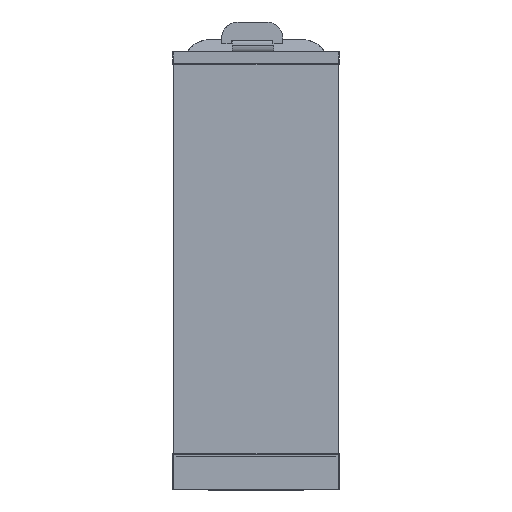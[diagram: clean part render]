
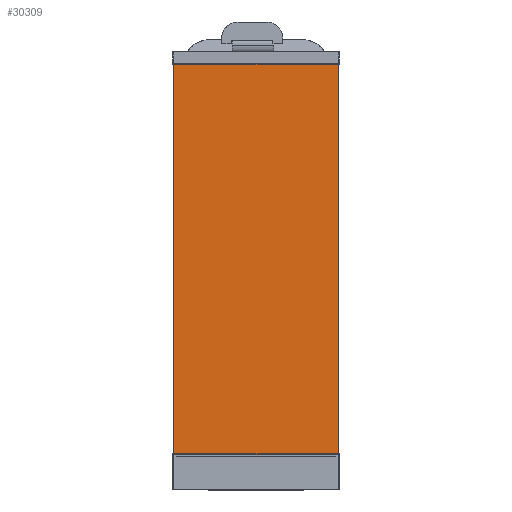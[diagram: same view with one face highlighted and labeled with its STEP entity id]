
A CAD part, left-side view. The second image highlights one B-rep face of the part: STEP entity #30309.
In plain terms, the highlighted planar face has unit normal (-1, 0, 0).
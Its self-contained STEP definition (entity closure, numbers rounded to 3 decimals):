
#30023=CARTESIAN_POINT('',(4.507,-787.008,176.06));
#30024=VERTEX_POINT('',#30023);
#30031=CARTESIAN_POINT('',(4.507,-787.008,163.06));
#30032=VERTEX_POINT('',#30031);
#30033=CARTESIAN_POINT('',(4.507,-787.008,163.06));
#30034=DIRECTION('',(0.0,0.0,1.0));
#30035=VECTOR('',#30034,13.);
#30036=LINE('',#30033,#30035);
#30037=EDGE_CURVE('',#30032,#30024,#30036,.T.);
#30053=CARTESIAN_POINT('',(4.507,-801.008,176.06));
#30054=VERTEX_POINT('',#30053);
#30071=CARTESIAN_POINT('',(4.507,-801.008,2050.06));
#30072=VERTEX_POINT('',#30071);
#30079=CARTESIAN_POINT('',(4.507,-801.008,2050.06));
#30080=DIRECTION('',(0.0,0.0,-1.0));
#30081=VECTOR('',#30080,1874.);
#30082=LINE('',#30079,#30081);
#30083=EDGE_CURVE('',#30072,#30054,#30082,.T.);
#30101=CARTESIAN_POINT('',(4.507,-801.008,176.06));
#30102=DIRECTION('',(0.0,1.0,0.0));
#30103=VECTOR('',#30102,14.0);
#30104=LINE('',#30101,#30103);
#30105=EDGE_CURVE('',#30054,#30024,#30104,.T.);
#30155=CARTESIAN_POINT('',(4.507,-17.007,163.06));
#30156=VERTEX_POINT('',#30155);
#30157=CARTESIAN_POINT('',(4.507,-17.007,176.06));
#30158=VERTEX_POINT('',#30157);
#30159=CARTESIAN_POINT('',(4.507,-17.007,163.06));
#30160=DIRECTION('',(0.0,0.0,1.0));
#30161=VECTOR('',#30160,13.);
#30162=LINE('',#30159,#30161);
#30163=EDGE_CURVE('',#30156,#30158,#30162,.T.);
#30195=CARTESIAN_POINT('',(4.507,-3.007,176.06));
#30196=VERTEX_POINT('',#30195);
#30197=CARTESIAN_POINT('',(4.507,-3.007,2050.06));
#30198=VERTEX_POINT('',#30197);
#30199=CARTESIAN_POINT('',(4.507,-3.007,176.06));
#30200=DIRECTION('',(0.0,0.0,1.0));
#30201=VECTOR('',#30200,1874.);
#30202=LINE('',#30199,#30201);
#30203=EDGE_CURVE('',#30196,#30198,#30202,.T.);
#30236=CARTESIAN_POINT('',(4.507,-3.007,176.06));
#30237=DIRECTION('',(0.0,-1.0,0.0));
#30238=VECTOR('',#30237,14.);
#30239=LINE('',#30236,#30238);
#30240=EDGE_CURVE('',#30196,#30158,#30239,.T.);
#30252=CARTESIAN_POINT('',(4.507,-1907.625,161.06));
#30253=DIRECTION('',(-1.0,0.0,0.0));
#30254=DIRECTION('',(0.0,-1.0,0.0));
#30255=AXIS2_PLACEMENT_3D('',#30252,#30253,#30254);
#30256=PLANE('',#30255);
#30257=CARTESIAN_POINT('',(4.507,-17.007,163.06));
#30258=DIRECTION('',(0.0,-1.0,0.0));
#30259=VECTOR('',#30258,770.);
#30260=LINE('',#30257,#30259);
#30261=EDGE_CURVE('',#30156,#30032,#30260,.T.);
#30262=ORIENTED_EDGE('',*,*,#30261,.T.);
#30263=ORIENTED_EDGE('',*,*,#30037,.T.);
#30264=ORIENTED_EDGE('',*,*,#30105,.F.);
#30265=ORIENTED_EDGE('',*,*,#30083,.F.);
#30266=CARTESIAN_POINT('',(4.507,-787.008,2050.06));
#30267=VERTEX_POINT('',#30266);
#30268=CARTESIAN_POINT('',(4.507,-801.008,2050.06));
#30269=DIRECTION('',(0.0,1.0,0.0));
#30270=VECTOR('',#30269,14.0);
#30271=LINE('',#30268,#30270);
#30272=EDGE_CURVE('',#30072,#30267,#30271,.T.);
#30273=ORIENTED_EDGE('',*,*,#30272,.T.);
#30274=CARTESIAN_POINT('',(4.507,-787.008,2063.06));
#30275=VERTEX_POINT('',#30274);
#30276=CARTESIAN_POINT('',(4.507,-787.008,2063.06));
#30277=DIRECTION('',(0.0,0.0,-1.0));
#30278=VECTOR('',#30277,13.0);
#30279=LINE('',#30276,#30278);
#30280=EDGE_CURVE('',#30275,#30267,#30279,.T.);
#30281=ORIENTED_EDGE('',*,*,#30280,.F.);
#30282=CARTESIAN_POINT('',(4.507,-17.007,2063.06));
#30283=VERTEX_POINT('',#30282);
#30284=CARTESIAN_POINT('',(4.507,-17.007,2063.06));
#30285=DIRECTION('',(0.0,-1.0,0.0));
#30286=VECTOR('',#30285,770.);
#30287=LINE('',#30284,#30286);
#30288=EDGE_CURVE('',#30283,#30275,#30287,.T.);
#30289=ORIENTED_EDGE('',*,*,#30288,.F.);
#30290=CARTESIAN_POINT('',(4.507,-17.007,2050.06));
#30291=VERTEX_POINT('',#30290);
#30292=CARTESIAN_POINT('',(4.507,-17.007,2063.06));
#30293=DIRECTION('',(0.0,0.0,-1.0));
#30294=VECTOR('',#30293,13.0);
#30295=LINE('',#30292,#30294);
#30296=EDGE_CURVE('',#30283,#30291,#30295,.T.);
#30297=ORIENTED_EDGE('',*,*,#30296,.T.);
#30298=CARTESIAN_POINT('',(4.507,-3.007,2050.06));
#30299=DIRECTION('',(0.0,-1.0,0.0));
#30300=VECTOR('',#30299,14.0);
#30301=LINE('',#30298,#30300);
#30302=EDGE_CURVE('',#30198,#30291,#30301,.T.);
#30303=ORIENTED_EDGE('',*,*,#30302,.F.);
#30304=ORIENTED_EDGE('',*,*,#30203,.F.);
#30305=ORIENTED_EDGE('',*,*,#30240,.T.);
#30306=ORIENTED_EDGE('',*,*,#30163,.F.);
#30307=EDGE_LOOP('',(#30262,#30263,#30264,#30265,#30273,#30281,#30289,#30297,#30303,#30304,#30305,#30306));
#30308=FACE_OUTER_BOUND('',#30307,.T.);
#30309=ADVANCED_FACE('',(#30308),#30256,.T.);
